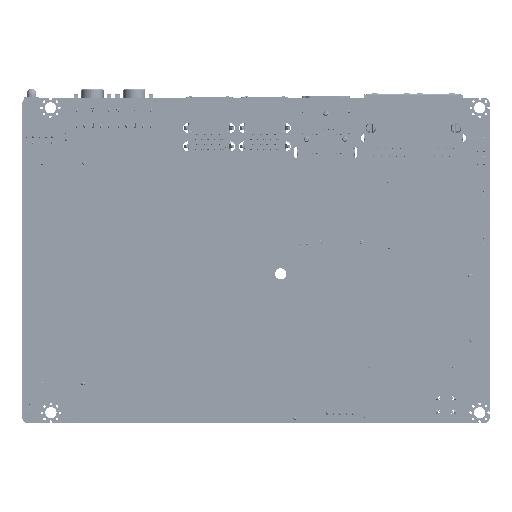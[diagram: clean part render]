
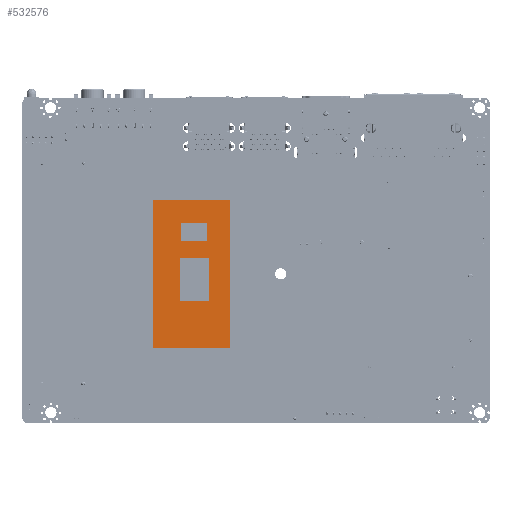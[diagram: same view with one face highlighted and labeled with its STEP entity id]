
A CAD part, front view. The second image highlights one B-rep face of the part: STEP entity #532576.
In plain terms, the highlighted planar face has unit normal (0, -1, 0) as drawn and (0, 1, 0) by its records, which use the part's own axes.
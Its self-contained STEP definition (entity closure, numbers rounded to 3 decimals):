
#532293=DIRECTION('',(0.,0.,1.));
#532294=VECTOR('',#532293,24.);
#532295=CARTESIAN_POINT('',(-23.,0.617,-12.));
#532296=LINE('',#532295,#532294);
#532297=DIRECTION('',(-1.,0.,0.));
#532298=VECTOR('',#532297,46.);
#532299=CARTESIAN_POINT('',(23.,0.617,-12.));
#532300=LINE('',#532299,#532298);
#532301=DIRECTION('',(0.,0.,-1.));
#532302=VECTOR('',#532301,24.);
#532303=CARTESIAN_POINT('',(23.,0.617,12.));
#532304=LINE('',#532303,#532302);
#532305=DIRECTION('',(1.,0.,0.));
#532306=VECTOR('',#532305,46.);
#532307=CARTESIAN_POINT('',(-23.,0.617,12.));
#532308=LINE('',#532307,#532306);
#532309=DIRECTION('',(0.,0.,1.));
#532310=VECTOR('',#532309,8.115);
#532311=CARTESIAN_POINT('',(10.267,0.617,-3.208));
#532312=LINE('',#532311,#532310);
#532313=DIRECTION('',(1.,0.,0.));
#532314=VECTOR('',#532313,5.715);
#532315=CARTESIAN_POINT('',(10.267,0.617,4.908));
#532316=LINE('',#532315,#532314);
#532317=DIRECTION('',(0.,0.,-1.));
#532318=VECTOR('',#532317,8.115);
#532319=CARTESIAN_POINT('',(15.982,0.617,4.908));
#532320=LINE('',#532319,#532318);
#532321=DIRECTION('',(-1.,0.,0.));
#532322=VECTOR('',#532321,5.715);
#532323=CARTESIAN_POINT('',(15.982,0.617,-3.208));
#532324=LINE('',#532323,#532322);
#532325=DIRECTION('',(0.,0.,1.));
#532326=VECTOR('',#532325,9.06);
#532327=CARTESIAN_POINT('',(-8.546,0.617,-3.578));
#532328=LINE('',#532327,#532326);
#532329=DIRECTION('',(1.,0.,0.));
#532330=VECTOR('',#532329,13.625);
#532331=CARTESIAN_POINT('',(-8.546,0.617,5.482));
#532332=LINE('',#532331,#532330);
#532333=DIRECTION('',(0.,0.,-1.));
#532334=VECTOR('',#532333,9.06);
#532335=CARTESIAN_POINT('',(5.08,0.617,5.482));
#532336=LINE('',#532335,#532334);
#532337=DIRECTION('',(-1.,0.,0.));
#532338=VECTOR('',#532337,13.625);
#532339=CARTESIAN_POINT('',(5.08,0.617,-3.578));
#532340=LINE('',#532339,#532338);
#532341=DIRECTION('',(0.,0.,1.));
#532342=VECTOR('',#532341,0.25);
#532343=CARTESIAN_POINT('',(-22.75,0.617,11.5));
#532344=LINE('',#532343,#532342);
#532345=DIRECTION('',(1.,0.,0.));
#532346=VECTOR('',#532345,0.25);
#532347=CARTESIAN_POINT('',(-22.75,0.617,11.75));
#532348=LINE('',#532347,#532346);
#532349=DIRECTION('',(-0.707,0.,-0.707));
#532350=VECTOR('',#532349,0.354);
#532351=CARTESIAN_POINT('',(-22.5,0.617,11.75));
#532352=LINE('',#532351,#532350);
#532473=CARTESIAN_POINT('',(-23.,0.617,-12.));
#532474=CARTESIAN_POINT('',(-23.,0.617,12.));
#532475=VERTEX_POINT('',#532473);
#532476=VERTEX_POINT('',#532474);
#532477=CARTESIAN_POINT('',(23.,0.617,12.));
#532478=VERTEX_POINT('',#532477);
#532479=CARTESIAN_POINT('',(23.,0.617,-12.));
#532480=VERTEX_POINT('',#532479);
#532497=CARTESIAN_POINT('',(10.267,0.617,-3.208));
#532498=CARTESIAN_POINT('',(10.267,0.617,4.908));
#532499=VERTEX_POINT('',#532497);
#532500=VERTEX_POINT('',#532498);
#532501=CARTESIAN_POINT('',(15.982,0.617,4.908));
#532502=VERTEX_POINT('',#532501);
#532503=CARTESIAN_POINT('',(15.982,0.617,-3.208));
#532504=VERTEX_POINT('',#532503);
#532505=CARTESIAN_POINT('',(-8.546,0.617,-3.578));
#532506=CARTESIAN_POINT('',(-8.546,0.617,5.482));
#532507=VERTEX_POINT('',#532505);
#532508=VERTEX_POINT('',#532506);
#532509=CARTESIAN_POINT('',(5.08,0.617,5.482));
#532510=VERTEX_POINT('',#532509);
#532511=CARTESIAN_POINT('',(5.08,0.617,-3.578));
#532512=VERTEX_POINT('',#532511);
#532527=CARTESIAN_POINT('',(-22.75,0.617,11.5));
#532528=CARTESIAN_POINT('',(-22.75,0.617,11.75));
#532529=VERTEX_POINT('',#532527);
#532530=VERTEX_POINT('',#532528);
#532531=CARTESIAN_POINT('',(-22.5,0.617,11.75));
#532532=VERTEX_POINT('',#532531);
#532533=CARTESIAN_POINT('',(0.,0.617,0.));
#532534=DIRECTION('',(0.,1.,0.));
#532535=DIRECTION('',(1.,0.,0.));
#532536=AXIS2_PLACEMENT_3D('',#532533,#532534,#532535);
#532537=PLANE('',#532536);
#532539=ORIENTED_EDGE('',*,*,#532538,.F.);
#532541=ORIENTED_EDGE('',*,*,#532540,.F.);
#532543=ORIENTED_EDGE('',*,*,#532542,.F.);
#532545=ORIENTED_EDGE('',*,*,#532544,.F.);
#532546=EDGE_LOOP('',(#532539,#532541,#532543,#532545));
#532547=FACE_OUTER_BOUND('',#532546,.F.);
#532549=ORIENTED_EDGE('',*,*,#532548,.T.);
#532551=ORIENTED_EDGE('',*,*,#532550,.T.);
#532553=ORIENTED_EDGE('',*,*,#532552,.T.);
#532555=ORIENTED_EDGE('',*,*,#532554,.T.);
#532556=EDGE_LOOP('',(#532549,#532551,#532553,#532555));
#532557=FACE_BOUND('',#532556,.F.);
#532559=ORIENTED_EDGE('',*,*,#532558,.T.);
#532561=ORIENTED_EDGE('',*,*,#532560,.T.);
#532563=ORIENTED_EDGE('',*,*,#532562,.T.);
#532565=ORIENTED_EDGE('',*,*,#532564,.T.);
#532566=EDGE_LOOP('',(#532559,#532561,#532563,#532565));
#532567=FACE_BOUND('',#532566,.F.);
#532569=ORIENTED_EDGE('',*,*,#532568,.T.);
#532571=ORIENTED_EDGE('',*,*,#532570,.T.);
#532573=ORIENTED_EDGE('',*,*,#532572,.T.);
#532574=EDGE_LOOP('',(#532569,#532571,#532573));
#532575=FACE_BOUND('',#532574,.F.);
#532576=ADVANCED_FACE('',(#532547,#532557,#532567,#532575),#532537,.T.);
#532538=EDGE_CURVE('',#532475,#532476,#532296,.T.);
#532540=EDGE_CURVE('',#532480,#532475,#532300,.T.);
#532542=EDGE_CURVE('',#532478,#532480,#532304,.T.);
#532544=EDGE_CURVE('',#532476,#532478,#532308,.T.);
#532548=EDGE_CURVE('',#532499,#532500,#532312,.T.);
#532550=EDGE_CURVE('',#532500,#532502,#532316,.T.);
#532552=EDGE_CURVE('',#532502,#532504,#532320,.T.);
#532554=EDGE_CURVE('',#532504,#532499,#532324,.T.);
#532558=EDGE_CURVE('',#532507,#532508,#532328,.T.);
#532560=EDGE_CURVE('',#532508,#532510,#532332,.T.);
#532562=EDGE_CURVE('',#532510,#532512,#532336,.T.);
#532564=EDGE_CURVE('',#532512,#532507,#532340,.T.);
#532568=EDGE_CURVE('',#532529,#532530,#532344,.T.);
#532570=EDGE_CURVE('',#532530,#532532,#532348,.T.);
#532572=EDGE_CURVE('',#532532,#532529,#532352,.T.);
